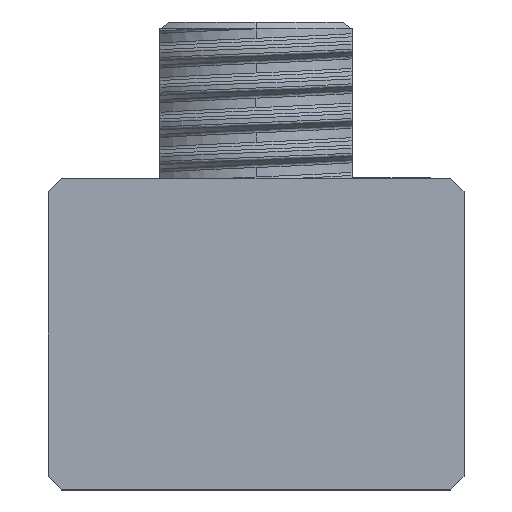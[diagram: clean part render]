
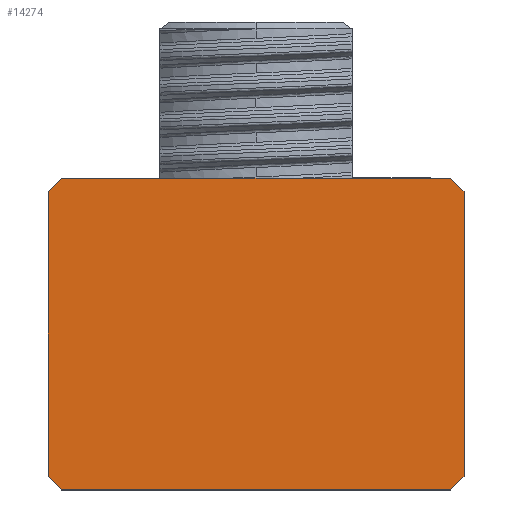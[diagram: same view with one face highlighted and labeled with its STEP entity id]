
A CAD part, left-side view. The second image highlights one B-rep face of the part: STEP entity #14274.
In plain terms, the highlighted planar face has unit normal (-1, 0, 0).
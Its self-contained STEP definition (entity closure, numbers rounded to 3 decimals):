
#1775 = LINE ( 'NONE', #10536, #34857 ) ;
#1989 = EDGE_CURVE ( 'NONE', #29099, #26645, #7548, .T. ) ;
#2552 = VECTOR ( 'NONE', #5966, 1000. ) ;
#2913 = CARTESIAN_POINT ( 'NONE',  ( -60., 23., 22.5 ) ) ;
#3594 = DIRECTION ( 'NONE',  ( 0., 0.707, 0.707 ) ) ;
#4702 = DIRECTION ( 'NONE',  ( 0., 0., 1. ) ) ;
#5233 = EDGE_CURVE ( 'NONE', #9383, #7649, #14755, .T. ) ;
#5966 = DIRECTION ( 'NONE',  ( 0., -0.707, -0.707 ) ) ;
#6751 = CARTESIAN_POINT ( 'NONE',  ( -60., -33., -22.5 ) ) ;
#7207 = LINE ( 'NONE', #34379, #36077 ) ;
#7548 = LINE ( 'NONE', #19347, #15935 ) ;
#7649 = VERTEX_POINT ( 'NONE', #30885 ) ;
#7688 = PLANE ( 'NONE',  #23975 ) ;
#8958 = CARTESIAN_POINT ( 'NONE',  ( -60., -43.5, -89. ) ) ;
#9383 = VERTEX_POINT ( 'NONE', #30492 ) ;
#9922 = CARTESIAN_POINT ( 'NONE',  ( -60., -33., 22.5 ) ) ;
#10536 = CARTESIAN_POINT ( 'NONE',  ( -60., -71.5, 16. ) ) ;
#10860 = FACE_OUTER_BOUND ( 'NONE', #28870, .T. ) ;
#11400 = EDGE_CURVE ( 'NONE', #26645, #25277, #30252, .T. ) ;
#12187 = DIRECTION ( 'NONE',  ( 0., 0., -1. ) ) ;
#12486 = EDGE_CURVE ( 'NONE', #25277, #35216, #7207, .T. ) ;
#12511 = VECTOR ( 'NONE', #20126, 1000. ) ;
#12997 = ORIENTED_EDGE ( 'NONE', *, *, #5233, .T. ) ;
#13550 = CARTESIAN_POINT ( 'NONE',  ( -60., -110., -22.5 ) ) ;
#13878 = CARTESIAN_POINT ( 'NONE',  ( -60., -110., -22.5 ) ) ;
#14274 = ADVANCED_FACE ( 'NONE', ( #10860 ), #7688, .T. ) ;
#14755 = LINE ( 'NONE', #8958, #2552 ) ;
#15202 = CARTESIAN_POINT ( 'NONE',  ( -60., -35., -22.5 ) ) ;
#15543 = ORIENTED_EDGE ( 'NONE', *, *, #39280, .F. ) ;
#15737 = CARTESIAN_POINT ( 'NONE',  ( -60., -35., 20.5 ) ) ;
#15935 = VECTOR ( 'NONE', #3594, 1000. ) ;
#16804 = EDGE_CURVE ( 'NONE', #31102, #7649, #28920, .T. ) ;
#19347 = CARTESIAN_POINT ( 'NONE',  ( -60., -94., -38.5 ) ) ;
#20126 = DIRECTION ( 'NONE',  ( 0., 1., 0. ) ) ;
#20137 = VECTOR ( 'NONE', #36434, 1000. ) ;
#20260 = CARTESIAN_POINT ( 'NONE',  ( -60., 25., -22.5 ) ) ;
#21516 = ORIENTED_EDGE ( 'NONE', *, *, #12486, .T. ) ;
#22684 = EDGE_CURVE ( 'NONE', #31102, #23793, #1775, .T. ) ;
#22718 = DIRECTION ( 'NONE',  ( 0., -0.707, 0.707 ) ) ;
#22726 = VECTOR ( 'NONE', #12187, 1000. ) ;
#22865 = CARTESIAN_POINT ( 'NONE',  ( -60., 25., 20.5 ) ) ;
#23547 = ORIENTED_EDGE ( 'NONE', *, *, #11400, .T. ) ;
#23793 = VERTEX_POINT ( 'NONE', #27083 ) ;
#23844 = CARTESIAN_POINT ( 'NONE',  ( -60., -110., 22.5 ) ) ;
#23975 = AXIS2_PLACEMENT_3D ( 'NONE', #13878, #37650, #4702 ) ;
#24695 = ORIENTED_EDGE ( 'NONE', *, *, #22684, .T. ) ;
#25222 = ORIENTED_EDGE ( 'NONE', *, *, #30155, .F. ) ;
#25277 = VERTEX_POINT ( 'NONE', #2913 ) ;
#26645 = VERTEX_POINT ( 'NONE', #9922 ) ;
#27083 = CARTESIAN_POINT ( 'NONE',  ( -60., -35., -20.5 ) ) ;
#27781 = VECTOR ( 'NONE', #29442, 1000. ) ;
#28870 = EDGE_LOOP ( 'NONE', ( #35735, #24695, #25222, #34631, #23547, #21516, #15543, #12997 ) ) ;
#28920 = LINE ( 'NONE', #13550, #12511 ) ;
#29099 = VERTEX_POINT ( 'NONE', #15737 ) ;
#29442 = DIRECTION ( 'NONE',  ( 0., 0., 1. ) ) ;
#30155 = EDGE_CURVE ( 'NONE', #29099, #23793, #30386, .T. ) ;
#30252 = LINE ( 'NONE', #23844, #20137 ) ;
#30386 = LINE ( 'NONE', #15202, #22726 ) ;
#30492 = CARTESIAN_POINT ( 'NONE',  ( -60., 25., -20.5 ) ) ;
#30885 = CARTESIAN_POINT ( 'NONE',  ( -60., 23., -22.5 ) ) ;
#31102 = VERTEX_POINT ( 'NONE', #6751 ) ;
#34379 = CARTESIAN_POINT ( 'NONE',  ( -60., -21., 66.5 ) ) ;
#34631 = ORIENTED_EDGE ( 'NONE', *, *, #1989, .T. ) ;
#34857 = VECTOR ( 'NONE', #22718, 1000. ) ;
#35216 = VERTEX_POINT ( 'NONE', #22865 ) ;
#35735 = ORIENTED_EDGE ( 'NONE', *, *, #16804, .F. ) ;
#36077 = VECTOR ( 'NONE', #37182, 1000. ) ;
#36423 = LINE ( 'NONE', #20260, #27781 ) ;
#36434 = DIRECTION ( 'NONE',  ( 0., 1., 0. ) ) ;
#37182 = DIRECTION ( 'NONE',  ( 0., 0.707, -0.707 ) ) ;
#37650 = DIRECTION ( 'NONE',  ( -1., 0., 0. ) ) ;
#39280 = EDGE_CURVE ( 'NONE', #9383, #35216, #36423, .T. ) ;
